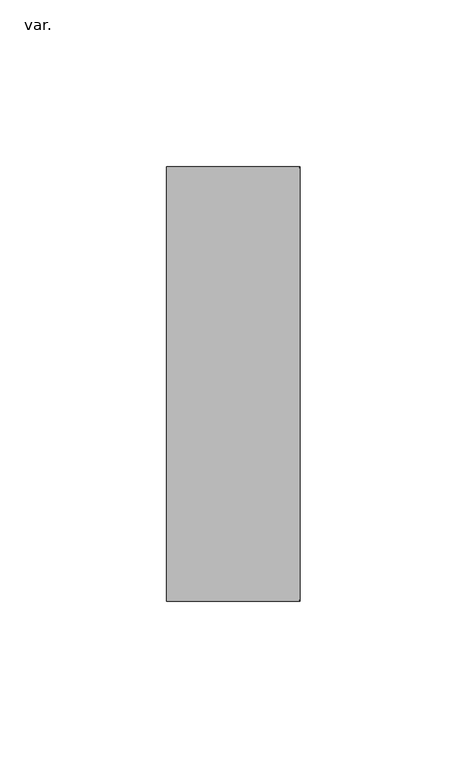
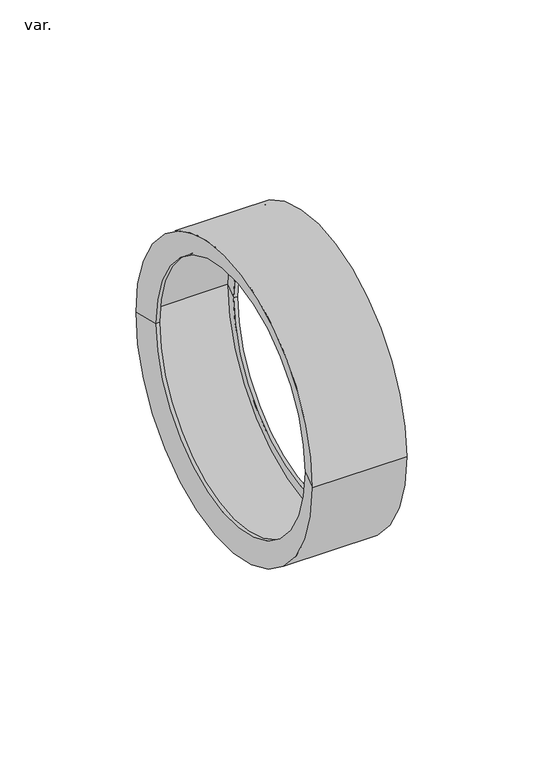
"""IFC4 building model written with IfcOpenShell, lengths in millimetres: pipe fitting geometry, Wavin SiTech+ Z_DO_NOT_USE Haltekralle Typ LKS : var.."""

import ifcopenshell
import ifcopenshell.guid

model = None  # the IFC model being written
_history = None  # IfcOwnerHistory: only IFC2X3 demands one
_inside = {}  # id of a spatial element -> (the spatial element, [elements in it])
_under = {}  # id of a project, library or spatial element -> (it, [spatial elements below it])
_declared = {}  # id of a project -> (the project, [libraries it declares])
_typed = {}  # id of a type object -> (the type object, [elements of that type])
_made_of = {}  # id of a material, layer set ... -> (it, [elements and type objects made of it])


def new_model(schema):
    """Start an empty IFC model of exactly this schema.

    Asked for "IFC4X3", IfcOpenShell would pick the latest addendum, in which some entities
    have other attributes; the version numbers below select the first issue.
    IFC2X3 requires an IfcOwnerHistory on every rooted entity: one is made here for all.
    """
    global model, _history
    if schema == "IFC4X3":
        model = ifcopenshell.file(schema_version=(4, 3, 0, 0))
    else:
        model = ifcopenshell.file(schema=schema)
    _inside.clear()
    _under.clear()
    _declared.clear()
    _typed.clear()
    _made_of.clear()
    _history = None
    if model.schema == "IFC2X3":
        org = make("IfcOrganization", Name="unknown")
        user = make(
            "IfcPersonAndOrganization",
            ThePerson=make("IfcPerson", FamilyName="unknown"),
            TheOrganization=org,
        )
        app = make(
            "IfcApplication",
            ApplicationDeveloper=org,
            Version="unknown",
            ApplicationFullName="unknown",
            ApplicationIdentifier="unknown",
        )
        _history = make(
            "IfcOwnerHistory",
            OwningUser=user,
            OwningApplication=app,
            ChangeAction="ADDED",
            CreationDate=0,
        )
    return model


def make(cls, **values):
    """One entity of the class cls with the attributes given. An attribute that is None is left unset."""
    return model.create_entity(
        cls, **{name: value for name, value in values.items() if value is not None}
    )


def rooted(cls, **values):
    """An entity with a GlobalId (a new one), such as an element, a storey or a relation."""
    return make(cls, GlobalId=ifcopenshell.guid.new(), OwnerHistory=_history, **values)


def si_unit(unit_type, name, prefix=None):
    """IfcSIUnit, for example si_unit("LENGTHUNIT", "METRE", prefix="MILLI")."""
    return make("IfcSIUnit", UnitType=unit_type, Prefix=prefix, Name=name)


def assignment(units):
    """IfcUnitAssignment: the units of a project."""
    return None if units is None else make("IfcUnitAssignment", Units=units)


def point(xyz):
    """IfcCartesianPoint."""
    return None if xyz is None else make("IfcCartesianPoint", Coordinates=xyz)


def direction(xyz):
    """IfcDirection."""
    return None if xyz is None else make("IfcDirection", DirectionRatios=xyz)


def frame(location, z_axis=None, x_axis=None):
    """IfcAxis2Placement3D, a coordinate frame: its origin and axes. An axis left out is left unset."""
    return make(
        "IfcAxis2Placement3D",
        Location=point(location),
        Axis=direction(z_axis),
        RefDirection=direction(x_axis),
    )


def origin():
    """The frame at (0, 0, 0) with its axes left unset."""
    return frame((0.0, 0.0, 0.0))


def place(relative_to, where):
    """IfcLocalPlacement: puts the frame where relative to a parent placement (None: the world)."""
    return make(
        "IfcLocalPlacement", PlacementRelTo=relative_to, RelativePlacement=where
    )


def context(
    kind, dimensions, precision=None, world=None, true_north=None, identifier=None
):
    """IfcGeometricRepresentationContext, for example the 3D "Model" context."""
    return make(
        "IfcGeometricRepresentationContext",
        ContextIdentifier=identifier,
        ContextType=kind,
        CoordinateSpaceDimension=dimensions,
        Precision=precision,
        WorldCoordinateSystem=world,
        TrueNorth=true_north,
    )


def project(units=None, contexts=None):
    """IfcProject with its units and contexts."""
    return rooted(
        "IfcProject",
        Name="project",
        RepresentationContexts=contexts,
        UnitsInContext=assignment(units),
    )


def spatial(cls, under=None, at=None, **own):
    """A site, building, storey or space (cls), placed at a placement, below another one or the project."""
    s = rooted(cls, ObjectPlacement=at, **own)
    if under is not None:
        _under.setdefault(under.id(), (under, []))[1].append(s)
    return s


def polyline(points):
    """IfcPolyline through the points."""
    return make("IfcPolyline", Points=[point(p) for p in points])


def circle_curve(where, radius):
    """IfcCircle in the frame where."""
    return make("IfcCircle", Position=where, Radius=radius)


def shape(context_of_items, identifier, shape_type, items):
    """IfcShapeRepresentation: the items that make up one representation, for example the "Body"."""
    return make(
        "IfcShapeRepresentation",
        ContextOfItems=context_of_items,
        RepresentationIdentifier=identifier,
        RepresentationType=shape_type,
        Items=items,
    )


def source(mapping_origin, context_of_items, identifier, shape_type, items):
    """IfcRepresentationMap: a shape defined once, which mapped items show again and again."""
    return make(
        "IfcRepresentationMap",
        MappingOrigin=mapping_origin,
        MappedRepresentation=shape(context_of_items, identifier, shape_type, items),
    )


def transform(
    local_origin,
    x_axis=None,
    y_axis=None,
    z_axis=None,
    scale=None,
    scale2=None,
    scale3=None,
    uniform=True,
):
    """IfcCartesianTransformationOperator3D, or its non-uniform kind. x_axis, y_axis, z_axis: its Axis1, 2, 3."""
    if uniform:
        return make(
            "IfcCartesianTransformationOperator3D",
            Axis1=direction(x_axis),
            Axis2=direction(y_axis),
            LocalOrigin=point(local_origin),
            Scale=scale,
            Axis3=direction(z_axis),
        )
    return make(
        "IfcCartesianTransformationOperator3DnonUniform",
        Axis1=direction(x_axis),
        Axis2=direction(y_axis),
        LocalOrigin=point(local_origin),
        Scale=scale,
        Axis3=direction(z_axis),
        Scale2=scale2,
        Scale3=scale3,
    )


def mapped(mapping_source, mapping_target):
    """IfcMappedItem: shows the shape of a source again, moved by a transform."""
    return make(
        "IfcMappedItem", MappingSource=mapping_source, MappingTarget=mapping_target
    )


def made_of(thing, what):
    """Note that an element or type object is made of a material, layer set ...; save() writes the relation."""
    if what is not None:
        _made_of.setdefault(what.id(), (what, []))[1].append(thing)
    return thing


def element(
    cls,
    number,
    at=None,
    inside=None,
    cuts=None,
    type_object=None,
    material=None,
    context=None,
    identifier="Body",
    shape_type=None,
    held_by="IfcProductDefinitionShape",
    body=None,
    shapes=None,
    **own,
):
    """One element of the class cls, such as IfcWall. Its Tag is "e" and its number.

    at: its placement. inside: the storey or other place that contains it. cuts: it is an
    opening in that element (IfcRelVoidsElement). A single representation is given by context,
    identifier, shape_type and body (its items); several are given by shapes. held_by: the class
    of the entity that holds the representations. save() writes the other relations.
    """
    e = rooted(cls, Tag="e%d" % number, ObjectPlacement=at, **own)
    if body is not None:
        shapes = [shape(context, identifier, shape_type, body)]
    if shapes is not None:
        e.Representation = make(held_by, Representations=shapes)
    if inside is not None:
        _inside.setdefault(inside.id(), (inside, []))[1].append(e)
    if cuts is not None:
        rooted(
            "IfcRelVoidsElement", RelatingBuildingElement=cuts, RelatedOpeningElement=e
        )
    if type_object is not None:
        _typed.setdefault(type_object.id(), (type_object, []))[1].append(e)
    return made_of(e, material)


def aggregate(whole, parts):
    """IfcRelAggregates: a whole, such as a stair, and the parts it consists of."""
    return rooted("IfcRelAggregates", RelatingObject=whole, RelatedObjects=parts)


def save(model, path):
    """Write the relations noted so far, then the file.

    IfcRelAggregates (storeys below a building ...), IfcRelContainedInSpatialStructure (elements
    in a storey), IfcRelDefinesByType, IfcRelAssociatesMaterial and IfcRelDeclares: one each for
    every whole, place, type object, material and project.
    """
    for whole, parts in _under.values():
        aggregate(whole, parts)
    for where, things in _inside.values():
        rooted(
            "IfcRelContainedInSpatialStructure",
            RelatedElements=things,
            RelatingStructure=where,
        )
    for kind, things in _typed.values():
        rooted("IfcRelDefinesByType", RelatedObjects=things, RelatingType=kind)
    for what, things in _made_of.values():
        rooted("IfcRelAssociatesMaterial", RelatedObjects=things, RelatingMaterial=what)
    for by, libraries in _declared.values():
        rooted("IfcRelDeclares", RelatingContext=by, RelatedDefinitions=libraries)
    model.write(path)


def cylinder_surface(at, radius):
    """IfcCylindricalSurface: all points at the distance radius from the z axis of the frame at."""
    return make("IfcCylindricalSurface", Position=at, Radius=radius)


def revolved_surface(curve, axis_point, axis_direction):
    """IfcSurfaceOfRevolution: the curve turned about the line through axis_point along axis_direction."""
    return make(
        "IfcSurfaceOfRevolution",
        SweptCurve=make("IfcArbitraryOpenProfileDef", ProfileType="CURVE", Curve=curve),
        AxisPosition=make("IfcAxis1Placement", Location=point(axis_point), Axis=direction(axis_direction)),
    )


def advanced_brep(points, edges, surfaces, faces):
    """IfcAdvancedBrep: a solid bounded by faces that lie on surfaces and meet in shared edges.

    An edge is (start, end): straight between two places in points (the first is 0);
    or (start, end, curve); or (start, end, curve, False) where it runs against its curve.
    A face is (place in surfaces, loops), or (place, loops, False) where it looks against
    its surface's normal. A loop lists edges by number (the first is 1), with a minus sign
    where the edge is run from its end to its start. The first loop is the outer one.
    """
    corners = [point(p) for p in points]
    vertices = [make("IfcVertexPoint", VertexGeometry=c) for c in corners]
    made = []
    for start, end, *more in edges:
        made.append(
            make(
                "IfcEdgeCurve",
                EdgeStart=vertices[start],
                EdgeEnd=vertices[end],
                EdgeGeometry=more[0] if more else make("IfcPolyline", Points=[corners[start], corners[end]]),
                SameSense=more[1] if len(more) > 1 else True,
            )
        )
    hull = []
    for where, loops, *sense in faces:
        bounds = []
        for j, loop in enumerate(loops):
            ring = [make("IfcOrientedEdge", EdgeElement=made[abs(k) - 1], Orientation=k > 0) for k in loop]
            bounds.append(
                make(
                    "IfcFaceOuterBound" if j == 0 else "IfcFaceBound",
                    Bound=make("IfcEdgeLoop", EdgeList=ring),
                    Orientation=True,
                )
            )
        hull.append(make("IfcAdvancedFace", Bounds=bounds, FaceSurface=surfaces[where], SameSense=sense[0] if sense else True))
    return make("IfcAdvancedBrep", Outer=make("IfcClosedShell", CfsFaces=hull))


def var_eee4e819(model_context):
    return source(origin(), model_context, "Body", "AdvancedBrep", [
        advanced_brep(
        [(-77.2, -65.0, 0.0), (-77.2, 65.0, 0.0), (-37.2, 65.0, 0.0), (-37.2, -65.0, 0.0), (-74.5205081, -55.0, 0.0), (-74.5205081, 55.0, 0.0), (-72.9675938, -55.0, 0.0), (-72.9675938, 55.0, 0.0), (-75.2451619, -63.5, 0.0), (-75.2451619, 63.5, 0.0), (-39.1548381, -63.5, 0.0), (-39.1548381, 63.5, 0.0), (-41.4324062, -55.0, 0.0), (-41.4324062, 55.0, 0.0), (-39.8794919, -55.0, 0.0), (-39.8794919, 55.0, 0.0)],
        [
            (0, 1, circle_curve(frame((-77.2, 0.0, 0.0), z_axis=(1.0, 0.0, 0.0), x_axis=(0.0, 1.0, 0.0)), 65.0)),
            (1, 2),
            (2, 3, circle_curve(frame((-37.2, 0.0, 0.0), z_axis=(-1.0, 0.0, 0.0), x_axis=(0.0, 1.0, 0.0)), 65.0)),
            (3, 0),
            (1, 0, circle_curve(frame((-77.2, 0.0, 0.0), z_axis=(1.0, 0.0, 0.0), x_axis=(0.0, 1.0, 0.0)), 65.0)),
            (3, 2, circle_curve(frame((-37.2, 0.0, 0.0), z_axis=(-1.0, 0.0, 0.0), x_axis=(0.0, 1.0, 0.0)), 65.0)),
            (4, 5, circle_curve(frame((-74.5205081, 0.0, 0.0), z_axis=(1.0, 0.0, 0.0), x_axis=(0.0, 1.0, 0.0)), 55.0)),
            (5, 1),
            (0, 4),
            (5, 4, circle_curve(frame((-74.5205081, 0.0, 0.0), z_axis=(1.0, 0.0, 0.0), x_axis=(0.0, 1.0, 0.0)), 55.0)),
            (6, 7, circle_curve(frame((-72.9675938, 0.0, 0.0), z_axis=(1.0, 0.0, 0.0), x_axis=(0.0, 1.0, 0.0)), 55.0)),
            (7, 5),
            (4, 6),
            (7, 6, circle_curve(frame((-72.9675938, 0.0, 0.0), z_axis=(1.0, 0.0, 0.0), x_axis=(0.0, 1.0, 0.0)), 55.0)),
            (8, 9, circle_curve(frame((-75.2451619, 0.0, 0.0), z_axis=(1.0, 0.0, 0.0), x_axis=(0.0, 1.0, 0.0)), 63.5)),
            (9, 7),
            (6, 8),
            (9, 8, circle_curve(frame((-75.2451619, 0.0, 0.0), z_axis=(1.0, 0.0, 0.0), x_axis=(0.0, 1.0, 0.0)), 63.5)),
            (10, 11, circle_curve(frame((-39.1548381, 0.0, 0.0), z_axis=(1.0, 0.0, 0.0), x_axis=(0.0, 1.0, 0.0)), 63.5)),
            (11, 9),
            (8, 10),
            (11, 10, circle_curve(frame((-39.1548381, 0.0, 0.0), z_axis=(1.0, 0.0, 0.0), x_axis=(0.0, 1.0, 0.0)), 63.5)),
            (12, 13, circle_curve(frame((-41.4324062, 0.0, 0.0), z_axis=(1.0, 0.0, 0.0), x_axis=(0.0, 1.0, 0.0)), 55.0)),
            (13, 11),
            (10, 12),
            (13, 12, circle_curve(frame((-41.4324062, 0.0, 0.0), z_axis=(1.0, 0.0, 0.0), x_axis=(0.0, 1.0, 0.0)), 55.0)),
            (14, 15, circle_curve(frame((-39.8794919, 0.0, 0.0), z_axis=(1.0, 0.0, 0.0), x_axis=(0.0, 1.0, 0.0)), 55.0)),
            (15, 13),
            (12, 14),
            (15, 14, circle_curve(frame((-39.8794919, 0.0, 0.0), z_axis=(1.0, 0.0, 0.0), x_axis=(0.0, 1.0, 0.0)), 55.0)),
            (2, 15),
            (14, 3),
        ],
        [
            cylinder_surface(frame((-87.9320508, 0.0, 0.0), z_axis=(-1.0, 0.0, 0.0), x_axis=(0.0, 1.0, 0.0)), 65.0),
            revolved_surface(polyline([(-77.2, 65.0, 0.0), (-74.5205081, 55.0, 0.0)]), (-87.9320508, 0.0, 0.0), (-1.0, 0.0, 0.0)),
            revolved_surface(polyline([(-74.5205081, 55.0, 0.0), (-72.9675938, 55.0, 0.0)]), (-87.9320508, 0.0, 0.0), (-1.0, 0.0, 0.0)),
            revolved_surface(polyline([(-72.9675938, 55.0, 0.0), (-75.2451619, 63.5, 0.0)]), (-87.9320508, 0.0, 0.0), (-1.0, 0.0, 0.0)),
            revolved_surface(polyline([(-75.2451619, 63.5, 0.0), (-39.1548381, 63.5, 0.0)]), (-87.9320508, 0.0, 0.0), (-1.0, 0.0, 0.0)),
            revolved_surface(polyline([(-39.1548381, 63.5, 0.0), (-41.4324062, 55.0, 0.0)]), (-87.9320508, 0.0, 0.0), (-1.0, 0.0, 0.0)),
            revolved_surface(polyline([(-41.4324062, 55.0, 0.0), (-39.8794919, 55.0, 0.0)]), (-87.9320508, 0.0, 0.0), (-1.0, 0.0, 0.0)),
            revolved_surface(polyline([(-39.8794919, 55.0, 0.0), (-37.2, 65.0, 0.0)]), (-87.9320508, 0.0, 0.0), (-1.0, 0.0, 0.0)),
        ],
        [
            (0, [[1, 2, 3, 4]]),
            (0, [[5, -4, 6, -2]]),
            (1, [[7, 8, -1, 9]]),
            (1, [[10, -9, -5, -8]]),
            (2, [[11, 12, -7, 13]]),
            (2, [[14, -13, -10, -12]]),
            (3, [[15, 16, -11, 17]]),
            (3, [[18, -17, -14, -16]]),
            (4, [[19, 20, -15, 21]]),
            (4, [[22, -21, -18, -20]]),
            (5, [[23, 24, -19, 25]]),
            (5, [[26, -25, -22, -24]]),
            (6, [[27, 28, -23, 29]]),
            (6, [[30, -29, -26, -28]]),
            (7, [[-3, 31, -27, 32]]),
            (7, [[-6, -32, -30, -31]]),
        ],
    ),
    ])


if __name__ == "__main__":
    model = new_model("IFC4")
    model_context = context("Model", 3, world=origin())
    ifc_project = project(units=[si_unit("LENGTHUNIT", "METRE", prefix="MILLI")], contexts=[model_context])
    site = spatial("IfcSite", under=ifc_project)
    building = spatial("IfcBuilding", under=site)
    placement = place(None, origin())
    var_shape = var_eee4e819(model_context)
    element("IfcPipeFitting", 1, ObjectType="Wavin SiTech+ Z_DO_NOT_USE Haltekralle Typ LKS : var.", at=placement, inside=building, context=model_context, shape_type="MappedRepresentation", body=[
        mapped(var_shape, transform((0.0, 0.0, 0.0), x_axis=(1.0, 0.0, 0.0), y_axis=(0.0, 1.0, 0.0), z_axis=(0.0, 0.0, 1.0))),
    ])
    save(model, "model.ifc")
